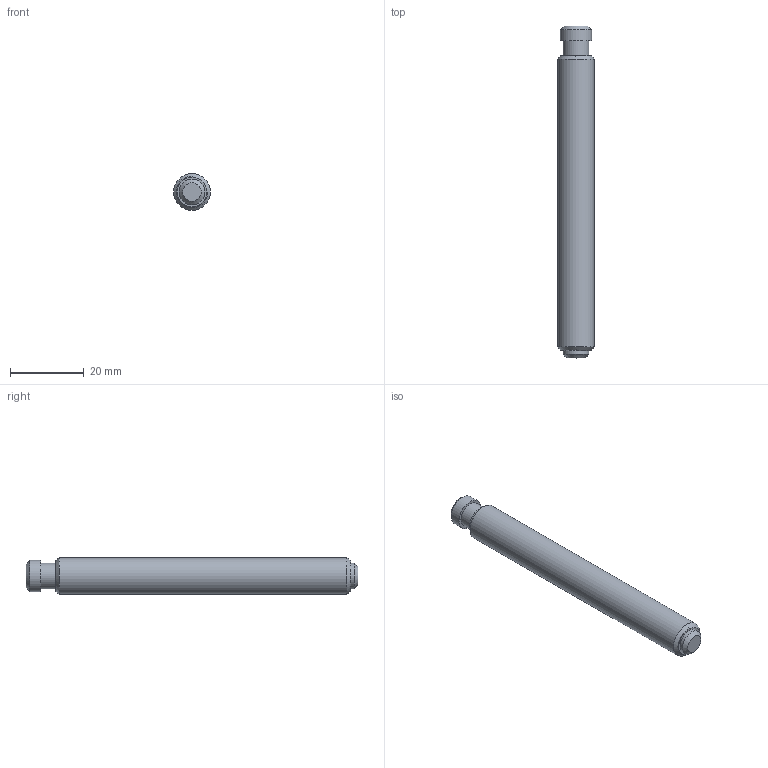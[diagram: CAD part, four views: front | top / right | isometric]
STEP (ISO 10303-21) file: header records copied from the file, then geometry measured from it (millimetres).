
FILE_DESCRIPTION(/* description */ (''),/* implementation_level */ '2;1');
FILE_NAME(/* name */ 'H:\5-Olympiades\47e\Sujet Régional\Etau\A donner aux candidats\2-Après-Midi\19-Vis de serrage.stp',/* time_stamp */ '2022-03-30T09:33:54+02:00',/* author */ ('Philippe'),/* organization */ (''),/* preprocessor_version */ 'ST-DEVELOPER v18',/* originating_system */ 'Autodesk Inventor 2020',/* authorisation */ '');
FILE_SCHEMA (('CONFIG_CONTROL_DESIGN'));
Length unit declared in the file: millimetre
Products named in the file (1): 19-Vis de serrage
Bounding box: 10 x 90 x 10 mm (x, y, z)
Volume: 6689.5 mm3; surface area: 4477.3 mm2
Topology: 1 solids, 2 shells, 14 faces, 32 edges, 24 vertices
Faces by surface type: cylinder 5, plane 5, cone 4
Full cylindrical faces by diameter (mm): 7 x2, 8.5 x1, 10 x1
Entity records: 459 total; most frequent: DIRECTION 84, CARTESIAN_POINT 71, ORIENTED_EDGE 60, AXIS2_PLACEMENT_3D 37, EDGE_CURVE 32, VERTEX_POINT 24, CIRCLE 22, EDGE_LOOP 17
